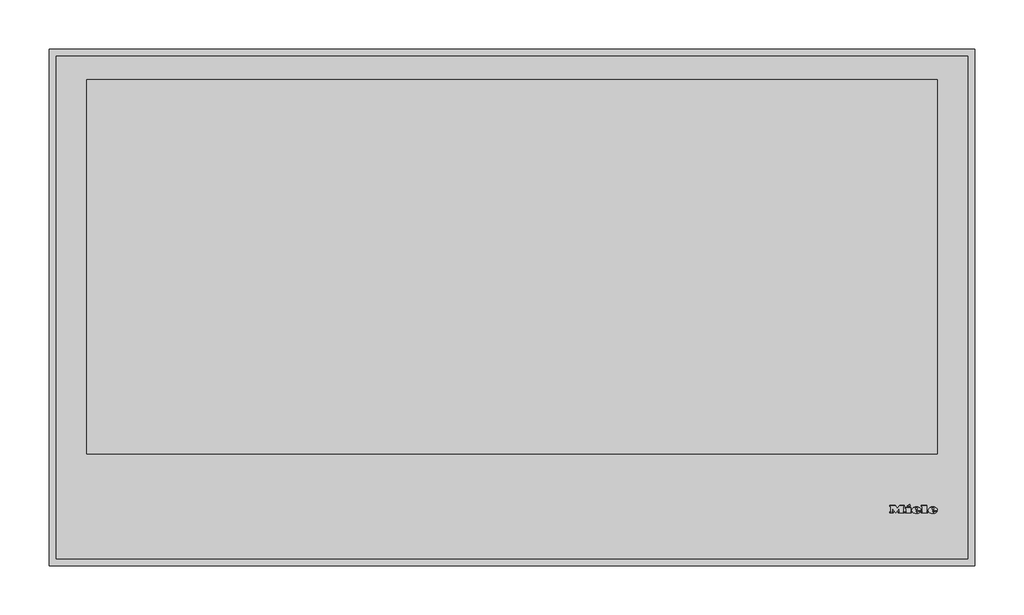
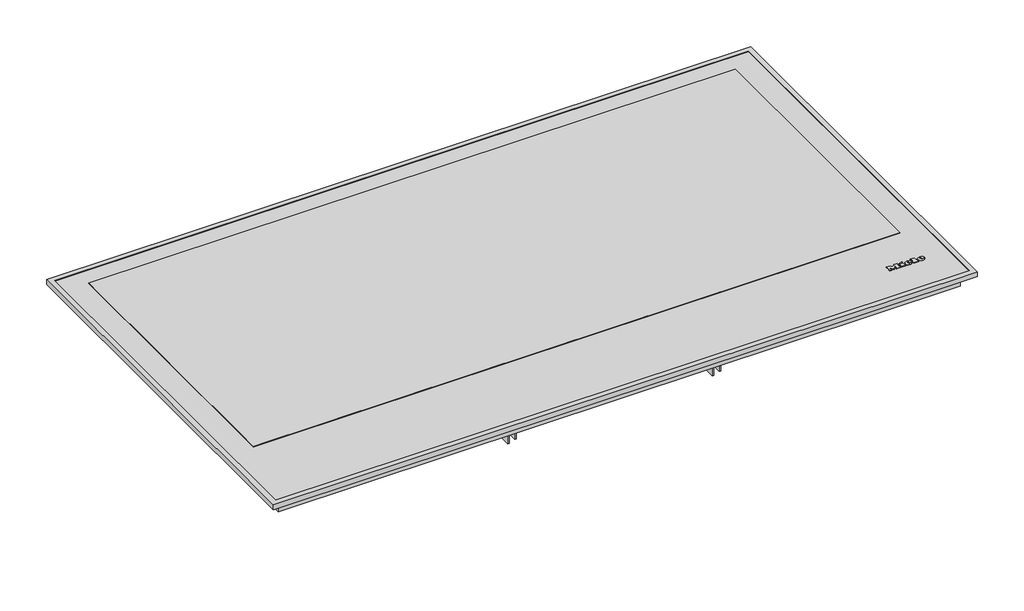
# Not in any storey: 1 proxy.
"""IFC4 building model written with IfcOpenShell, lengths in millimetres."""

from ifc_helpers import new_model, si_unit, origin, place, context, project, spatial, transform, mapped, element, save
from components import specialty_equipment_5698b96c

model = new_model("IFC4")

# Units and contexts
model_context = context("Model", 3, world=origin())
ifc_project = project(units=[si_unit("LENGTHUNIT", "METRE", prefix="MILLI")], contexts=[model_context])

# Site, building
site = spatial("IfcSite", under=ifc_project)
building = spatial("IfcBuilding", under=site)

# Proxy
placement = place(None, origin())
specialty_equipment_shape = specialty_equipment_5698b96c(model_context)
element("IfcBuildingElementProxy", 1, Name="11128760_D_KM7697FR : 26769700_D_11128760_KM7697FR", ObjectType="11128760_D_KM7697FR : 26769700_D_11128760_KM7697FR", at=placement, inside=building, context=model_context, shape_type="MappedRepresentation", body=[
    mapped(specialty_equipment_shape, transform((0.0, 0.0, 0.0), x_axis=(1.0, 0.0, 0.0), y_axis=(0.0, 1.0, 0.0), z_axis=(0.0, 0.0, 1.0))),
])

save(model, "model.ifc")
